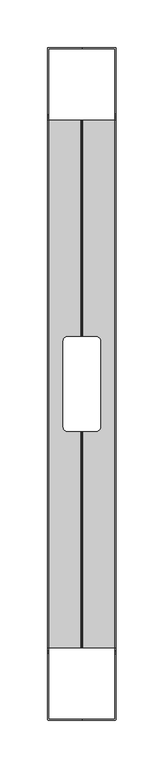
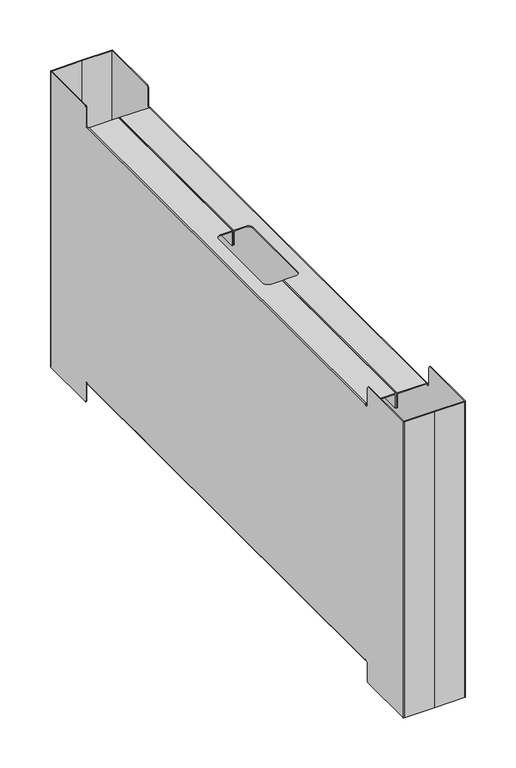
"""IFC4 building model written with IfcOpenShell, lengths in millimetres: furniture geometry, FREZZA_POP AD_Carter_for bench desk : Bracket_ZGBI - Embossed White."""

import ifcopenshell
import ifcopenshell.guid

model = None  # the IFC model being written
_history = None  # IfcOwnerHistory: only IFC2X3 demands one
_inside = {}  # id of a spatial element -> (the spatial element, [elements in it])
_under = {}  # id of a project, library or spatial element -> (it, [spatial elements below it])
_declared = {}  # id of a project -> (the project, [libraries it declares])
_typed = {}  # id of a type object -> (the type object, [elements of that type])
_made_of = {}  # id of a material, layer set ... -> (it, [elements and type objects made of it])


def new_model(schema):
    """Start an empty IFC model of exactly this schema.

    Asked for "IFC4X3", IfcOpenShell would pick the latest addendum, in which some entities
    have other attributes; the version numbers below select the first issue.
    IFC2X3 requires an IfcOwnerHistory on every rooted entity: one is made here for all.
    """
    global model, _history
    if schema == "IFC4X3":
        model = ifcopenshell.file(schema_version=(4, 3, 0, 0))
    else:
        model = ifcopenshell.file(schema=schema)
    _inside.clear()
    _under.clear()
    _declared.clear()
    _typed.clear()
    _made_of.clear()
    _history = None
    if model.schema == "IFC2X3":
        org = make("IfcOrganization", Name="unknown")
        user = make(
            "IfcPersonAndOrganization",
            ThePerson=make("IfcPerson", FamilyName="unknown"),
            TheOrganization=org,
        )
        app = make(
            "IfcApplication",
            ApplicationDeveloper=org,
            Version="unknown",
            ApplicationFullName="unknown",
            ApplicationIdentifier="unknown",
        )
        _history = make(
            "IfcOwnerHistory",
            OwningUser=user,
            OwningApplication=app,
            ChangeAction="ADDED",
            CreationDate=0,
        )
    return model


def make(cls, **values):
    """One entity of the class cls with the attributes given. An attribute that is None is left unset."""
    return model.create_entity(
        cls, **{name: value for name, value in values.items() if value is not None}
    )


def rooted(cls, **values):
    """An entity with a GlobalId (a new one), such as an element, a storey or a relation."""
    return make(cls, GlobalId=ifcopenshell.guid.new(), OwnerHistory=_history, **values)


def si_unit(unit_type, name, prefix=None):
    """IfcSIUnit, for example si_unit("LENGTHUNIT", "METRE", prefix="MILLI")."""
    return make("IfcSIUnit", UnitType=unit_type, Prefix=prefix, Name=name)


def assignment(units):
    """IfcUnitAssignment: the units of a project."""
    return None if units is None else make("IfcUnitAssignment", Units=units)


def point(xyz):
    """IfcCartesianPoint."""
    return None if xyz is None else make("IfcCartesianPoint", Coordinates=xyz)


def direction(xyz):
    """IfcDirection."""
    return None if xyz is None else make("IfcDirection", DirectionRatios=xyz)


def frame(location, z_axis=None, x_axis=None):
    """IfcAxis2Placement3D, a coordinate frame: its origin and axes. An axis left out is left unset."""
    return make(
        "IfcAxis2Placement3D",
        Location=point(location),
        Axis=direction(z_axis),
        RefDirection=direction(x_axis),
    )


def origin():
    """The frame at (0, 0, 0) with its axes left unset."""
    return frame((0.0, 0.0, 0.0))


def place(relative_to, where):
    """IfcLocalPlacement: puts the frame where relative to a parent placement (None: the world)."""
    return make(
        "IfcLocalPlacement", PlacementRelTo=relative_to, RelativePlacement=where
    )


def context(
    kind, dimensions, precision=None, world=None, true_north=None, identifier=None
):
    """IfcGeometricRepresentationContext, for example the 3D "Model" context."""
    return make(
        "IfcGeometricRepresentationContext",
        ContextIdentifier=identifier,
        ContextType=kind,
        CoordinateSpaceDimension=dimensions,
        Precision=precision,
        WorldCoordinateSystem=world,
        TrueNorth=true_north,
    )


def project(units=None, contexts=None):
    """IfcProject with its units and contexts."""
    return rooted(
        "IfcProject",
        Name="project",
        RepresentationContexts=contexts,
        UnitsInContext=assignment(units),
    )


def spatial(cls, under=None, at=None, **own):
    """A site, building, storey or space (cls), placed at a placement, below another one or the project."""
    s = rooted(cls, ObjectPlacement=at, **own)
    if under is not None:
        _under.setdefault(under.id(), (under, []))[1].append(s)
    return s


def polyline(points):
    """IfcPolyline through the points."""
    return make("IfcPolyline", Points=[point(p) for p in points])


def circle_curve(where, radius):
    """IfcCircle in the frame where."""
    return make("IfcCircle", Position=where, Radius=radius)


def shape(context_of_items, identifier, shape_type, items):
    """IfcShapeRepresentation: the items that make up one representation, for example the "Body"."""
    return make(
        "IfcShapeRepresentation",
        ContextOfItems=context_of_items,
        RepresentationIdentifier=identifier,
        RepresentationType=shape_type,
        Items=items,
    )


def source(mapping_origin, context_of_items, identifier, shape_type, items):
    """IfcRepresentationMap: a shape defined once, which mapped items show again and again."""
    return make(
        "IfcRepresentationMap",
        MappingOrigin=mapping_origin,
        MappedRepresentation=shape(context_of_items, identifier, shape_type, items),
    )


def transform(
    local_origin,
    x_axis=None,
    y_axis=None,
    z_axis=None,
    scale=None,
    scale2=None,
    scale3=None,
    uniform=True,
):
    """IfcCartesianTransformationOperator3D, or its non-uniform kind. x_axis, y_axis, z_axis: its Axis1, 2, 3."""
    if uniform:
        return make(
            "IfcCartesianTransformationOperator3D",
            Axis1=direction(x_axis),
            Axis2=direction(y_axis),
            LocalOrigin=point(local_origin),
            Scale=scale,
            Axis3=direction(z_axis),
        )
    return make(
        "IfcCartesianTransformationOperator3DnonUniform",
        Axis1=direction(x_axis),
        Axis2=direction(y_axis),
        LocalOrigin=point(local_origin),
        Scale=scale,
        Axis3=direction(z_axis),
        Scale2=scale2,
        Scale3=scale3,
    )


def mapped(mapping_source, mapping_target):
    """IfcMappedItem: shows the shape of a source again, moved by a transform."""
    return make(
        "IfcMappedItem", MappingSource=mapping_source, MappingTarget=mapping_target
    )


def made_of(thing, what):
    """Note that an element or type object is made of a material, layer set ...; save() writes the relation."""
    if what is not None:
        _made_of.setdefault(what.id(), (what, []))[1].append(thing)
    return thing


def element(
    cls,
    number,
    at=None,
    inside=None,
    cuts=None,
    type_object=None,
    material=None,
    context=None,
    identifier="Body",
    shape_type=None,
    held_by="IfcProductDefinitionShape",
    body=None,
    shapes=None,
    **own,
):
    """One element of the class cls, such as IfcWall. Its Tag is "e" and its number.

    at: its placement. inside: the storey or other place that contains it. cuts: it is an
    opening in that element (IfcRelVoidsElement). A single representation is given by context,
    identifier, shape_type and body (its items); several are given by shapes. held_by: the class
    of the entity that holds the representations. save() writes the other relations.
    """
    e = rooted(cls, Tag="e%d" % number, ObjectPlacement=at, **own)
    if body is not None:
        shapes = [shape(context, identifier, shape_type, body)]
    if shapes is not None:
        e.Representation = make(held_by, Representations=shapes)
    if inside is not None:
        _inside.setdefault(inside.id(), (inside, []))[1].append(e)
    if cuts is not None:
        rooted(
            "IfcRelVoidsElement", RelatingBuildingElement=cuts, RelatedOpeningElement=e
        )
    if type_object is not None:
        _typed.setdefault(type_object.id(), (type_object, []))[1].append(e)
    return made_of(e, material)


def aggregate(whole, parts):
    """IfcRelAggregates: a whole, such as a stair, and the parts it consists of."""
    return rooted("IfcRelAggregates", RelatingObject=whole, RelatedObjects=parts)


def save(model, path):
    """Write the relations noted so far, then the file.

    IfcRelAggregates (storeys below a building ...), IfcRelContainedInSpatialStructure (elements
    in a storey), IfcRelDefinesByType, IfcRelAssociatesMaterial and IfcRelDeclares: one each for
    every whole, place, type object, material and project.
    """
    for whole, parts in _under.values():
        aggregate(whole, parts)
    for where, things in _inside.values():
        rooted(
            "IfcRelContainedInSpatialStructure",
            RelatedElements=things,
            RelatingStructure=where,
        )
    for kind, things in _typed.values():
        rooted("IfcRelDefinesByType", RelatedObjects=things, RelatingType=kind)
    for what, things in _made_of.values():
        rooted("IfcRelAssociatesMaterial", RelatedObjects=things, RelatingMaterial=what)
    for by, libraries in _declared.values():
        rooted("IfcRelDeclares", RelatingContext=by, RelatedDefinitions=libraries)
    model.write(path)


def plane_surface(at):
    """IfcPlane: the flat surface through the origin of the frame at, square to its z axis."""
    return make("IfcPlane", Position=at)


def cylinder_surface(at, radius):
    """IfcCylindricalSurface: all points at the distance radius from the z axis of the frame at."""
    return make("IfcCylindricalSurface", Position=at, Radius=radius)


def revolved_surface(curve, axis_point, axis_direction):
    """IfcSurfaceOfRevolution: the curve turned about the line through axis_point along axis_direction."""
    return make(
        "IfcSurfaceOfRevolution",
        SweptCurve=make("IfcArbitraryOpenProfileDef", ProfileType="CURVE", Curve=curve),
        AxisPosition=make("IfcAxis1Placement", Location=point(axis_point), Axis=direction(axis_direction)),
    )


def advanced_brep(points, edges, surfaces, faces):
    """IfcAdvancedBrep: a solid bounded by faces that lie on surfaces and meet in shared edges.

    An edge is (start, end): straight between two places in points (the first is 0);
    or (start, end, curve); or (start, end, curve, False) where it runs against its curve.
    A face is (place in surfaces, loops), or (place, loops, False) where it looks against
    its surface's normal. A loop lists edges by number (the first is 1), with a minus sign
    where the edge is run from its end to its start. The first loop is the outer one.
    """
    corners = [point(p) for p in points]
    vertices = [make("IfcVertexPoint", VertexGeometry=c) for c in corners]
    made = []
    for start, end, *more in edges:
        made.append(
            make(
                "IfcEdgeCurve",
                EdgeStart=vertices[start],
                EdgeEnd=vertices[end],
                EdgeGeometry=more[0] if more else make("IfcPolyline", Points=[corners[start], corners[end]]),
                SameSense=more[1] if len(more) > 1 else True,
            )
        )
    hull = []
    for where, loops, *sense in faces:
        bounds = []
        for j, loop in enumerate(loops):
            ring = [make("IfcOrientedEdge", EdgeElement=made[abs(k) - 1], Orientation=k > 0) for k in loop]
            bounds.append(
                make(
                    "IfcFaceOuterBound" if j == 0 else "IfcFaceBound",
                    Bound=make("IfcEdgeLoop", EdgeList=ring),
                    Orientation=True,
                )
            )
        hull.append(make("IfcAdvancedFace", Bounds=bounds, FaceSurface=surfaces[where], SameSense=sense[0] if sense else True))
    return make("IfcAdvancedBrep", Outer=make("IfcClosedShell", CfsFaces=hull))


def furniture_a54ab712(model_context):
    return source(origin(), model_context, "Body", "AdvancedBrep", [
        advanced_brep(
        [(1451.0, 237.05, 335.5), (1452.05, 237.05, 336.55), (1485.9, 237.05, 336.55), (1486.95, 237.05, 335.5), (1486.95, 237.05, 318.55), (1485.95, 237.05, 318.55), (1485.95, 237.05, 335.55), (1452.0, 237.05, 335.55), (1452.0, 237.05, 335.0), (1451.0, 237.05, 335.0), (1452.0, 237.05, 24.45), (1485.95, 237.05, 24.45), (1485.95, 237.05, 41.45), (1486.95, 237.05, 41.45), (1486.95, 237.05, 24.5), (1485.9, 237.05, 23.45), (1452.05, 237.05, 23.45), (1451.0, 237.05, 24.5), (1451.0, 237.05, 25.0), (1452.0, 237.05, 25.0), (1452.0, -316.05, 335.55), (1485.95, -316.05, 335.55), (1485.95, -316.05, 318.55), (1486.95, -316.05, 318.55), (1486.95, -316.05, 335.5), (1485.9, -316.05, 336.55), (1452.05, -316.05, 336.55), (1451.0, -316.05, 335.5), (1451.0, -316.05, 335.0), (1452.0, -316.05, 335.0), (1451.0, -316.05, 24.5), (1452.05, -316.05, 23.45), (1485.9, -316.05, 23.45), (1486.95, -316.05, 24.5), (1486.95, -316.05, 41.45), (1485.95, -316.05, 41.45), (1485.95, -316.05, 24.45), (1452.0, -316.05, 24.45), (1452.0, -316.05, 25.0), (1451.0, -316.05, 25.0), (1485.9, -89.5, 336.55), (1472.0, -89.5, 336.55), (1467.0, -84.5, 336.55), (1467.0, 5.5, 336.55), (1472.0, 10.5, 336.55), (1485.9, 10.5, 336.55), (1486.95, 10.5, 335.5), (1486.95, -89.5, 335.5), (1486.95, 10.5, 318.55), (1486.95, -89.5, 318.55), (1485.95, 10.5, 318.55), (1485.95, -89.5, 318.55), (1485.95, 10.5, 335.55), (1485.95, -89.5, 335.55), (1472.0, 10.5, 335.55), (1467.0, 5.5, 335.55), (1467.0, -84.5, 335.55), (1472.0, -89.5, 335.55), (1452.0, -318.5, 335.0), (1452.0, -320.5, 337.0), (1452.0, -320.5, 358.0), (1452.0, -322.5, 360.0), (1452.0, -391.05, 360.0), (1452.0, -391.05, 0.0), (1452.0, -322.5, 0.0), (1452.0, -320.5, 2.0), (1452.0, -320.5, 23.0), (1452.0, -318.5, 25.0), (1452.0, 239.5, 25.0), (1452.0, 241.5, 23.0), (1452.0, 241.5, 2.0), (1452.0, 243.5, 0.0), (1452.0, 312.05, 0.0), (1452.0, 312.05, 360.0), (1452.0, 243.5, 360.0), (1452.0, 241.5, 358.0), (1452.0, 241.5, 337.0), (1452.0, 239.5, 335.0), (1451.0, 239.5, 335.0), (1451.0, 241.5, 337.0), (1451.0, 241.5, 358.0), (1451.0, 243.5, 360.0), (1451.0, 312.05, 360.0), (1451.0, 312.05, 0.0), (1451.0, 243.5, 0.0), (1451.0, 241.5, 2.0), (1451.0, 241.5, 23.0), (1451.0, 239.5, 25.0), (1451.0, -318.5, 25.0), (1451.0, -320.5, 23.0), (1451.0, -320.5, 2.0), (1451.0, -322.5, 0.0), (1451.0, -391.0, 0.0), (1451.0, -391.0, 360.0), (1451.0, -322.5, 360.0), (1451.0, -320.5, 358.0), (1451.0, -320.5, 337.0), (1451.0, -318.5, 335.0), (1485.95, -89.5, 24.45), (1472.0, -89.5, 24.45), (1467.0, -84.5, 24.45), (1467.0, 5.5, 24.45), (1472.0, 10.5, 24.45), (1485.95, 10.5, 24.45), (1485.95, 10.5, 41.45), (1485.95, -89.5, 41.45), (1486.95, 10.5, 41.45), (1486.95, -89.5, 41.45), (1486.95, 10.5, 24.5), (1486.95, -89.5, 24.5), (1485.9, 10.5, 23.45), (1485.9, -89.5, 23.45), (1472.0, 10.5, 23.45), (1467.0, 5.5, 23.45), (1467.0, -84.5, 23.45), (1472.0, -89.5, 23.45), (1487.0, 313.05, 360.0), (1452.0, 313.05, 360.0), (1487.0, 312.05, 360.0), (1452.05, -392.05, 360.0), (1487.0, -392.05, 360.0), (1487.0, -391.05, 360.0), (1487.0, 313.05, 0.0), (1487.0, 312.05, 0.0), (1452.05, 313.05, 0.0), (1487.0, -391.05, 0.0), (1487.0, -392.05, 0.0), (1452.05, -392.05, 0.0)],
        [
            (0, 1, circle_curve(frame((1452.05, 237.05, 335.5), z_axis=(0.0, 1.0, 0.0), x_axis=(1.0, 0.0, 0.0)), 1.05)),
            (1, 2),
            (2, 3, circle_curve(frame((1485.9, 237.05, 335.5), z_axis=(0.0, 1.0, 0.0), x_axis=(1.0, 0.0, 0.0)), 1.05)),
            (3, 4),
            (4, 5),
            (5, 6),
            (6, 7),
            (7, 8),
            (8, 9),
            (9, 0),
            (10, 11),
            (11, 12),
            (12, 13),
            (13, 14),
            (14, 15, circle_curve(frame((1485.9, 237.05, 24.5), z_axis=(0.0, 1.0, 0.0), x_axis=(1.0, 0.0, 0.0)), 1.05)),
            (15, 16),
            (16, 17, circle_curve(frame((1452.05, 237.05, 24.5), z_axis=(0.0, 1.0, 0.0), x_axis=(1.0, 0.0, 0.0)), 1.05)),
            (17, 18),
            (18, 19),
            (19, 10),
            (20, 21),
            (21, 22),
            (22, 23),
            (23, 24),
            (24, 25, circle_curve(frame((1485.9, -316.05, 335.5), z_axis=(0.0, -1.0, 0.0), x_axis=(1.0, 0.0, 0.0)), 1.05)),
            (25, 26),
            (26, 27, circle_curve(frame((1452.05, -316.05, 335.5), z_axis=(0.0, -1.0, 0.0), x_axis=(1.0, 0.0, 0.0)), 1.05)),
            (27, 28),
            (28, 29),
            (29, 20),
            (30, 31, circle_curve(frame((1452.05, -316.05, 24.5), z_axis=(0.0, -1.0, 0.0), x_axis=(1.0, 0.0, 0.0)), 1.05)),
            (31, 32),
            (32, 33, circle_curve(frame((1485.9, -316.05, 24.5), z_axis=(0.0, -1.0, 0.0), x_axis=(1.0, 0.0, 0.0)), 1.05)),
            (33, 34),
            (34, 35),
            (35, 36),
            (36, 37),
            (37, 38),
            (38, 39),
            (39, 30),
            (0, 27),
            (26, 1),
            (25, 40),
            (40, 41),
            (41, 42, circle_curve(frame((1472.0, -84.5, 336.55), z_axis=(0.0, 0.0, -1.0), x_axis=(1.0, 0.0, 0.0)), 5.0)),
            (42, 43),
            (43, 44, circle_curve(frame((1472.0, 5.5, 336.55), z_axis=(0.0, 0.0, -1.0), x_axis=(1.0, 0.0, 0.0)), 5.0)),
            (44, 45),
            (45, 2),
            (45, 46, circle_curve(frame((1485.9, 10.5, 335.5), z_axis=(0.0, 1.0, 0.0), x_axis=(1.0, 0.0, 0.0)), 1.05)),
            (46, 3),
            (24, 47),
            (47, 40, circle_curve(frame((1485.9, -89.5, 335.5), z_axis=(0.0, -1.0, 0.0), x_axis=(1.0, 0.0, 0.0)), 1.05)),
            (46, 48),
            (48, 4),
            (23, 49),
            (49, 47),
            (48, 50),
            (50, 5),
            (22, 51),
            (51, 49),
            (50, 52),
            (52, 6),
            (21, 53),
            (53, 51),
            (52, 54),
            (54, 55, circle_curve(frame((1472.0, 5.5, 335.55), z_axis=(0.0, 0.0, 1.0), x_axis=(1.0, 0.0, 0.0)), 5.0)),
            (55, 56),
            (56, 57, circle_curve(frame((1472.0, -84.5, 335.55), z_axis=(0.0, 0.0, 1.0), x_axis=(1.0, 0.0, 0.0)), 5.0)),
            (57, 53),
            (20, 7),
            (29, 58),
            (58, 59, circle_curve(frame((1452.0, -318.5, 337.0), z_axis=(-1.0, 0.0, 0.0), x_axis=(0.0, -1.0, 0.0)), 2.0)),
            (59, 60),
            (60, 61, circle_curve(frame((1452.0, -322.5, 358.0), z_axis=(1.0, 0.0, 0.0), x_axis=(0.0, -1.0, 0.0)), 2.0)),
            (61, 62),
            (62, 63),
            (63, 64),
            (64, 65, circle_curve(frame((1452.0, -322.5, 2.0), z_axis=(1.0, 0.0, 0.0), x_axis=(0.0, -1.0, 0.0)), 2.0)),
            (65, 66),
            (66, 67, circle_curve(frame((1452.0, -318.5, 23.0), z_axis=(-1.0, 0.0, 0.0), x_axis=(0.0, -1.0, 0.0)), 2.0)),
            (67, 38),
            (37, 10),
            (19, 68),
            (68, 69, circle_curve(frame((1452.0, 239.5, 23.0), z_axis=(-1.0, 0.0, 0.0), x_axis=(0.0, -1.0, 0.0)), 2.0)),
            (69, 70),
            (70, 71, circle_curve(frame((1452.0, 243.5, 2.0), z_axis=(1.0, 0.0, 0.0), x_axis=(0.0, -1.0, 0.0)), 2.0)),
            (71, 72),
            (72, 73),
            (73, 74),
            (74, 75, circle_curve(frame((1452.0, 243.5, 358.0), z_axis=(1.0, 0.0, 0.0), x_axis=(0.0, -1.0, 0.0)), 2.0)),
            (75, 76),
            (76, 77, circle_curve(frame((1452.0, 239.5, 337.0), z_axis=(-1.0, 0.0, 0.0), x_axis=(0.0, -1.0, 0.0)), 2.0)),
            (77, 8),
            (9, 78),
            (78, 79, circle_curve(frame((1451.0, 239.5, 337.0), z_axis=(1.0, 0.0, 0.0), x_axis=(0.0, -1.0, 0.0)), 2.0)),
            (79, 80),
            (80, 81, circle_curve(frame((1451.0, 243.5, 358.0), z_axis=(-1.0, 0.0, 0.0), x_axis=(0.0, -1.0, 0.0)), 2.0)),
            (81, 82),
            (82, 83),
            (83, 84),
            (84, 85, circle_curve(frame((1451.0, 243.5, 2.0), z_axis=(-1.0, 0.0, 0.0), x_axis=(0.0, -1.0, 0.0)), 2.0)),
            (85, 86),
            (86, 87, circle_curve(frame((1451.0, 239.5, 23.0), z_axis=(1.0, 0.0, 0.0), x_axis=(0.0, -1.0, 0.0)), 2.0)),
            (87, 18),
            (17, 30),
            (39, 88),
            (88, 89, circle_curve(frame((1451.0, -318.5, 23.0), z_axis=(1.0, 0.0, 0.0), x_axis=(0.0, -1.0, 0.0)), 2.0)),
            (89, 90),
            (90, 91, circle_curve(frame((1451.0, -322.5, 2.0), z_axis=(-1.0, 0.0, 0.0), x_axis=(0.0, -1.0, 0.0)), 2.0)),
            (91, 92),
            (92, 93),
            (93, 94),
            (94, 95, circle_curve(frame((1451.0, -322.5, 358.0), z_axis=(-1.0, 0.0, 0.0), x_axis=(0.0, -1.0, 0.0)), 2.0)),
            (95, 96),
            (96, 97, circle_curve(frame((1451.0, -318.5, 337.0), z_axis=(1.0, 0.0, 0.0), x_axis=(0.0, -1.0, 0.0)), 2.0)),
            (97, 28),
            (36, 98),
            (98, 99),
            (99, 100, circle_curve(frame((1472.0, -84.5, 24.45), z_axis=(0.0, 0.0, -1.0), x_axis=(1.0, 0.0, 0.0)), 5.0)),
            (100, 101),
            (101, 102, circle_curve(frame((1472.0, 5.5, 24.45), z_axis=(0.0, 0.0, -1.0), x_axis=(1.0, 0.0, 0.0)), 5.0)),
            (102, 103),
            (103, 11),
            (103, 104),
            (104, 12),
            (35, 105),
            (105, 98),
            (104, 106),
            (106, 13),
            (34, 107),
            (107, 105),
            (106, 108),
            (108, 14),
            (33, 109),
            (109, 107),
            (108, 110, circle_curve(frame((1485.9, 10.5, 24.5), z_axis=(0.0, 1.0, 0.0), x_axis=(1.0, 0.0, 0.0)), 1.05)),
            (110, 15),
            (32, 111),
            (111, 109, circle_curve(frame((1485.9, -89.5, 24.5), z_axis=(0.0, -1.0, 0.0), x_axis=(1.0, 0.0, 0.0)), 1.05)),
            (110, 112),
            (112, 113, circle_curve(frame((1472.0, 5.5, 23.45), z_axis=(0.0, 0.0, 1.0), x_axis=(1.0, 0.0, 0.0)), 5.0)),
            (113, 114),
            (114, 115, circle_curve(frame((1472.0, -84.5, 23.45), z_axis=(0.0, 0.0, 1.0), x_axis=(1.0, 0.0, 0.0)), 5.0)),
            (115, 111),
            (31, 16),
            (56, 42),
            (41, 57),
            (114, 100),
            (99, 115),
            (44, 54),
            (102, 112),
            (43, 55),
            (101, 113),
            (116, 117),
            (117, 82, circle_curve(frame((1452.05, 312.0, 360.0), z_axis=(0.0, 0.0, 1.0), x_axis=(1.0, 0.0, 0.0)), 1.05)),
            (81, 74),
            (73, 118),
            (118, 116),
            (93, 119, circle_curve(frame((1452.05, -391.0, 360.0), z_axis=(0.0, 0.0, 1.0), x_axis=(1.0, 0.0, 0.0)), 1.05)),
            (119, 120),
            (120, 121),
            (121, 62),
            (61, 94),
            (122, 123),
            (123, 72),
            (71, 84),
            (83, 124, circle_curve(frame((1452.05, 312.0, 0.0), z_axis=(0.0, 0.0, -1.0), x_axis=(1.0, 0.0, 0.0)), 1.05)),
            (124, 122),
            (63, 125),
            (125, 126),
            (126, 127),
            (127, 92, circle_curve(frame((1452.05, -391.0, 0.0), z_axis=(0.0, 0.0, -1.0), x_axis=(1.0, 0.0, 0.0)), 1.05)),
            (91, 64),
            (116, 122),
            (124, 117),
            (127, 119),
            (126, 120),
            (125, 121),
            (123, 118),
            (80, 75),
            (79, 76),
            (78, 77),
            (97, 58),
            (96, 59),
            (95, 60),
            (90, 65),
            (89, 66),
            (88, 67),
            (87, 68),
            (86, 69),
            (85, 70),
        ],
        [
            plane_surface(frame((1487.0, 237.05, 0.0), z_axis=(0.0, 1.0, 0.0), x_axis=(0.0, 0.0, 1.0))),
            plane_surface(frame((1487.0, -316.05, 0.0), z_axis=(0.0, -1.0, 0.0), x_axis=(0.0, 0.0, 1.0))),
            cylinder_surface(frame((1452.05, 237.05, 335.5), z_axis=(0.0, 1.0, 0.0), x_axis=(1.0, 0.0, 0.0)), 1.05),
            plane_surface(frame((1452.05, 237.05, 336.55), z_axis=(0.0, 0.0, 1.0), x_axis=(0.0, -1.0, 0.0))),
            cylinder_surface(frame((1485.9, 237.05, 335.5), z_axis=(0.0, 1.0, 0.0), x_axis=(1.0, 0.0, 0.0)), 1.05),
            plane_surface(frame((1486.95, 237.05, 335.5), z_axis=(1.0, 0.0, 0.0), x_axis=(0.0, -1.0, 0.0))),
            plane_surface(frame((1486.95, 237.05, 318.55), z_axis=(0.0, 0.0, -1.0), x_axis=(0.0, -1.0, 0.0))),
            plane_surface(frame((1485.95, 237.05, 318.55), z_axis=(-1.0, 0.0, 0.0), x_axis=(0.0, -1.0, 0.0))),
            plane_surface(frame((1485.95, 237.05, 335.55), z_axis=(0.0, 0.0, -1.0), x_axis=(0.0, -1.0, 0.0))),
            plane_surface(frame((1452.0, 237.05, 335.55), z_axis=(1.0, 0.0, 0.0), x_axis=(0.0, -1.0, 0.0))),
            plane_surface(frame((1451.0, 237.05, 334.55), z_axis=(-1.0, 0.0, 0.0), x_axis=(0.0, -1.0, 0.0))),
            plane_surface(frame((1452.0, 237.05, 24.45), z_axis=(0.0, 0.0, 1.0), x_axis=(0.0, -1.0, 0.0))),
            plane_surface(frame((1485.95, 237.05, 24.45), z_axis=(-1.0, 0.0, 0.0), x_axis=(0.0, -1.0, 0.0))),
            plane_surface(frame((1485.95, 237.05, 41.45), z_axis=(0.0, 0.0, 1.0), x_axis=(0.0, -1.0, 0.0))),
            plane_surface(frame((1486.95, 237.05, 41.45), z_axis=(1.0, 0.0, 0.0), x_axis=(0.0, -1.0, 0.0))),
            cylinder_surface(frame((1485.9, 237.05, 24.5), z_axis=(0.0, 1.0, 0.0), x_axis=(1.0, 0.0, 0.0)), 1.05),
            plane_surface(frame((1485.9, 237.05, 23.45), z_axis=(0.0, 0.0, -1.0), x_axis=(0.0, -1.0, 0.0))),
            cylinder_surface(frame((1452.05, 237.05, 24.5), z_axis=(0.0, 1.0, 0.0), x_axis=(1.0, 0.0, 0.0)), 1.05),
            revolved_surface(polyline([(1477.0, -84.5, 336.55), (1477.0, -84.5, 335.55)]), (1472.0, -84.5, 0.0), (0.0, 0.0, 1.0)),
            revolved_surface(polyline([(1477.0, -84.5, 24.45), (1477.0, -84.5, 23.45)]), (1472.0, -84.5, 0.0), (0.0, 0.0, 1.0)),
            plane_surface(frame((1472.0, -89.5, 360.0), z_axis=(0.0, 1.0, 0.0), x_axis=(0.0, 0.0, -1.0))),
            plane_surface(frame((1502.0, 10.5, 360.0), z_axis=(0.0, -1.0, 0.0), x_axis=(0.0, 0.0, -1.0))),
            revolved_surface(polyline([(1477.0, 5.5, 336.55), (1477.0, 5.5, 335.55)]), (1472.0, 5.5, 0.0), (0.0, 0.0, 1.0)),
            revolved_surface(polyline([(1477.0, 5.5, 24.45), (1477.0, 5.5, 23.45)]), (1472.0, 5.5, 0.0), (0.0, 0.0, 1.0)),
            plane_surface(frame((1467.0, 5.5, 360.0), z_axis=(1.0, 0.0, 0.0), x_axis=(0.0, 0.0, -1.0))),
            plane_surface(frame((1452.0, 313.05, 360.0), z_axis=(0.0, 0.0, 1.0), x_axis=(-1.0, 0.0, 0.0))),
            plane_surface(frame((1452.0, 313.05, 0.0), z_axis=(0.0, 0.0, -1.0), x_axis=(1.0, 0.0, 0.0))),
            plane_surface(frame((1487.0, 313.05, 360.0), z_axis=(0.0, 1.0, 0.0), x_axis=(0.0, 0.0, -1.0))),
            cylinder_surface(frame((1452.05, 312.0, 0.0), z_axis=(0.0, 0.0, 1.0), x_axis=(1.0, 0.0, 0.0)), 1.05),
            cylinder_surface(frame((1452.05, -391.0, 0.0), z_axis=(0.0, 0.0, 1.0), x_axis=(1.0, 0.0, 0.0)), 1.05),
            plane_surface(frame((1452.05, -392.05, 360.0), z_axis=(0.0, -1.0, 0.0), x_axis=(0.0, 0.0, -1.0))),
            plane_surface(frame((1487.0, -392.05, 360.0), z_axis=(1.0, 0.0, 0.0), x_axis=(0.0, 0.0, -1.0))),
            plane_surface(frame((1487.0, -391.05, 360.0), z_axis=(0.0, 1.0, 0.0), x_axis=(0.0, 0.0, -1.0))),
            plane_surface(frame((1452.0, 312.05, 360.0), z_axis=(0.0, -1.0, 0.0), x_axis=(0.0, 0.0, -1.0))),
            plane_surface(frame((1487.0, 312.05, 360.0), z_axis=(1.0, 0.0, 0.0), x_axis=(0.0, 0.0, -1.0))),
            cylinder_surface(frame((1527.0, 243.5, 358.0), z_axis=(1.0, 0.0, 0.0), x_axis=(0.0, -1.0, 0.0)), 2.0),
            plane_surface(frame((1447.0, 241.5, 358.0), z_axis=(0.0, -1.0, 0.0), x_axis=(1.0, 0.0, 0.0))),
            revolved_surface(polyline([(1451.0, 237.5, 337.0), (1452.0, 237.5, 337.0)]), (1527.0, 239.5, 337.0), (-1.0, 0.0, 0.0)),
            plane_surface(frame((1447.0, 239.5, 335.0), z_axis=(0.0, 0.0, 1.0), x_axis=(1.0, 0.0, 0.0))),
            revolved_surface(polyline([(1451.0, -320.5, 337.0), (1452.0, -320.5, 337.0)]), (1527.0, -318.5, 337.0), (-1.0, 0.0, 0.0)),
            plane_surface(frame((1447.0, -320.5, 337.0), z_axis=(0.0, 1.0, 0.0), x_axis=(1.0, 0.0, 0.0))),
            cylinder_surface(frame((1527.0, -322.5, 358.0), z_axis=(1.0, 0.0, 0.0), x_axis=(0.0, -1.0, 0.0)), 2.0),
            cylinder_surface(frame((1447.0, -322.5, 2.0), z_axis=(1.0, 0.0, 0.0), x_axis=(0.0, -1.0, 0.0)), 2.0),
            plane_surface(frame((1447.0, -320.5, 2.0), z_axis=(0.0, 1.0, 0.0), x_axis=(1.0, 0.0, 0.0))),
            revolved_surface(polyline([(1451.0, -320.5, 23.0), (1452.0, -320.5, 23.0)]), (1447.0, -318.5, 23.0), (-1.0, 0.0, 0.0)),
            plane_surface(frame((1447.0, -318.5, 25.0), z_axis=(0.0, 0.0, -1.0), x_axis=(1.0, 0.0, 0.0))),
            revolved_surface(polyline([(1451.0, 237.5, 23.0), (1452.0, 237.5, 23.0)]), (1447.0, 239.5, 23.0), (-1.0, 0.0, 0.0)),
            plane_surface(frame((1447.0, 241.5, 23.0), z_axis=(0.0, -1.0, 0.0), x_axis=(1.0, 0.0, 0.0))),
            cylinder_surface(frame((1447.0, 243.5, 2.0), z_axis=(1.0, 0.0, 0.0), x_axis=(0.0, -1.0, 0.0)), 2.0),
        ],
        [
            (0, [[1, 2, 3, 4, 5, 6, 7, 8, 9, 10]]),
            (0, [[11, 12, 13, 14, 15, 16, 17, 18, 19, 20]]),
            (1, [[21, 22, 23, 24, 25, 26, 27, 28, 29, 30]]),
            (1, [[31, 32, 33, 34, 35, 36, 37, 38, 39, 40]]),
            (2, [[-1, 41, -27, 42]]),
            (3, [[-2, -42, -26, 43, 44, 45, 46, 47, 48, 49]]),
            (4, [[-3, -49, 50, 51]]),
            (4, [[-25, 52, 53, -43]]),
            (5, [[-4, -51, 54, 55]]),
            (5, [[-24, 56, 57, -52]]),
            (6, [[-5, -55, 58, 59]]),
            (6, [[-23, 60, 61, -56]]),
            (7, [[-6, -59, 62, 63]]),
            (7, [[-22, 64, 65, -60]]),
            (8, [[-7, -63, 66, 67, 68, 69, 70, -64, -21, 71]]),
            (9, [[-71, -30, 72, 73, 74, 75, 76, 77, 78, 79, 80, 81, 82, -38, 83, -20, 84, 85, 86, 87, 88, 89, 90, 91, 92, 93, 94, -8]]),
            (10, [[-41, -10, 95, 96, 97, 98, 99, 100, 101, 102, 103, 104, 105, -18, 106, -40, 107, 108, 109, 110, 111, 112, 113, 114, 115, 116, 117, -28]]),
            (11, [[-11, -83, -37, 118, 119, 120, 121, 122, 123, 124]]),
            (12, [[-12, -124, 125, 126]]),
            (12, [[-36, 127, 128, -118]]),
            (13, [[-13, -126, 129, 130]]),
            (13, [[-35, 131, 132, -127]]),
            (14, [[-14, -130, 133, 134]]),
            (14, [[-34, 135, 136, -131]]),
            (15, [[-15, -134, 137, 138]]),
            (15, [[-33, 139, 140, -135]]),
            (16, [[-16, -138, 141, 142, 143, 144, 145, -139, -32, 146]]),
            (17, [[-17, -146, -31, -106]]),
            (18, [[147, -45, 148, -69]]),
            (19, [[149, -120, 150, -144]]),
            (20, [[-148, -44, -53, -57, -61, -65, -70]]),
            (20, [[-150, -119, -128, -132, -136, -140, -145]]),
            (21, [[151, -66, -62, -58, -54, -50, -48]]),
            (21, [[152, -141, -137, -133, -129, -125, -123]]),
            (22, [[-151, -47, 153, -67]]),
            (23, [[-152, -122, 154, -142]]),
            (24, [[-147, -68, -153, -46]]),
            (24, [[-149, -143, -154, -121]]),
            (25, [[155, 156, -99, 157, -90, 158, 159]]),
            (25, [[160, 161, 162, 163, -76, 164, -113]]),
            (26, [[165, 166, -88, 167, -101, 168, 169]]),
            (26, [[170, 171, 172, 173, -111, 174, -78]]),
            (27, [[-155, 175, -169, 176]]),
            (28, [[-156, -176, -168, -100]]),
            (29, [[-160, -112, -173, 177]]),
            (30, [[-161, -177, -172, 178]]),
            (31, [[-162, -178, -171, 179]]),
            (32, [[-163, -179, -170, -77]]),
            (33, [[-158, -89, -166, 180]]),
            (34, [[-159, -180, -165, -175]]),
            (35, [[181, -91, -157, -98]]),
            (36, [[-181, -97, 182, -92]]),
            (37, [[-182, -96, 183, -93]]),
            (38, [[-183, -95, -9, -94]]),
            (38, [[184, -72, -29, -117]]),
            (39, [[-184, -116, 185, -73]]),
            (40, [[-185, -115, 186, -74]]),
            (41, [[-186, -114, -164, -75]]),
            (42, [[187, -79, -174, -110]]),
            (43, [[-187, -109, 188, -80]]),
            (44, [[-188, -108, 189, -81]]),
            (45, [[-189, -107, -39, -82]]),
            (45, [[190, -84, -19, -105]]),
            (46, [[-190, -104, 191, -85]]),
            (47, [[-191, -103, 192, -86]]),
            (48, [[-192, -102, -167, -87]]),
        ],
    ),
        advanced_brep(
        [(1502.0, -89.5, 336.55), (1502.0, -89.5, 335.55), (1488.05, -89.5, 335.55), (1488.05, -89.5, 318.55), (1487.05, -89.5, 318.55), (1487.05, -89.5, 335.5), (1488.1, -89.5, 336.55), (1502.0, -89.5, 24.45), (1502.0, -89.5, 23.45), (1488.1, -89.5, 23.45), (1487.05, -89.5, 24.5), (1487.05, -89.5, 41.45), (1488.05, -89.5, 41.45), (1488.05, -89.5, 24.45), (1507.0, -84.5, 336.55), (1507.0, -84.5, 335.55), (1507.0, -84.5, 24.45), (1507.0, -84.5, 23.45), (1507.0, 5.5, 336.55), (1507.0, 5.5, 335.55), (1507.0, 5.5, 24.45), (1507.0, 5.5, 23.45), (1502.0, 10.5, 336.55), (1502.0, 10.5, 335.55), (1502.0, 10.5, 24.45), (1502.0, 10.5, 23.45), (1488.1, 10.5, 336.55), (1487.05, 10.5, 335.5), (1487.05, 10.5, 318.55), (1488.05, 10.5, 318.55), (1488.05, 10.5, 335.55), (1488.05, 10.5, 24.45), (1488.05, 10.5, 41.45), (1487.05, 10.5, 41.45), (1487.05, 10.5, 24.5), (1488.1, 10.5, 23.45), (1522.0, 237.05, 335.55), (1488.05, 237.05, 335.55), (1488.05, 237.05, 318.55), (1487.05, 237.05, 318.55), (1487.05, 237.05, 335.5), (1488.1, 237.05, 336.55), (1521.95, 237.05, 336.55), (1523.0, 237.05, 335.5), (1523.0, 237.05, 335.0), (1522.0, 237.05, 335.0), (1523.0, 237.05, 24.5), (1521.95, 237.05, 23.45), (1488.1, 237.05, 23.45), (1487.05, 237.05, 24.5), (1487.05, 237.05, 41.45), (1488.05, 237.05, 41.45), (1488.05, 237.05, 24.45), (1522.0, 237.05, 24.45), (1522.0, 237.05, 25.0), (1523.0, 237.05, 25.0), (1523.0, -316.05, 335.5), (1521.95, -316.05, 336.55), (1488.1, -316.05, 336.55), (1487.05, -316.05, 335.5), (1487.05, -316.05, 318.55), (1488.05, -316.05, 318.55), (1488.05, -316.05, 335.55), (1522.0, -316.05, 335.55), (1522.0, -316.05, 335.0), (1523.0, -316.05, 335.0), (1522.0, -316.05, 24.45), (1488.05, -316.05, 24.45), (1488.05, -316.05, 41.45), (1487.05, -316.05, 41.45), (1487.05, -316.05, 24.5), (1488.1, -316.05, 23.45), (1521.95, -316.05, 23.45), (1523.0, -316.05, 24.5), (1523.0, -316.05, 25.0), (1522.0, -316.05, 25.0), (1522.0, 239.5, 335.0), (1522.0, 241.5, 337.0), (1522.0, 241.5, 358.0), (1522.0, 243.5, 360.0), (1522.0, 312.05, 360.0), (1522.0, 312.05, 0.0), (1522.0, 243.5, 0.0), (1522.0, 241.5, 2.0), (1522.0, 241.5, 23.0), (1522.0, 239.5, 25.0), (1522.0, -318.5, 25.0), (1522.0, -320.5, 23.0), (1522.0, -320.5, 2.0), (1522.0, -322.5, 0.0), (1522.0, -391.05, 0.0), (1522.0, -391.05, 360.0), (1522.0, -322.5, 360.0), (1522.0, -320.5, 358.0), (1522.0, -320.5, 337.0), (1522.0, -318.5, 335.0), (1523.0, -318.5, 335.0), (1523.0, -320.5, 337.0), (1523.0, -320.5, 358.0), (1523.0, -322.5, 360.0), (1523.0, -391.0, 360.0), (1523.0, -391.0, 0.0), (1523.0, -322.5, 0.0), (1523.0, -320.5, 2.0), (1523.0, -320.5, 23.0), (1523.0, -318.5, 25.0), (1523.0, 239.5, 25.0), (1523.0, 241.5, 23.0), (1523.0, 241.5, 2.0), (1523.0, 243.5, 0.0), (1523.0, 312.05, 0.0), (1523.0, 312.0, 360.0), (1523.0, 243.5, 360.0), (1523.0, 241.5, 358.0), (1523.0, 241.5, 337.0), (1523.0, 239.5, 335.0), (1487.0, 313.05, 360.0), (1487.0, 312.05, 360.0), (1521.95, 313.05, 360.0), (1487.0, -391.05, 360.0), (1487.0, -392.05, 360.0), (1521.95, -392.05, 360.0), (1487.0, 313.05, 0.0), (1522.0, 313.05, 0.0), (1487.0, 312.05, 0.0), (1521.95, -392.05, 0.0), (1487.0, -392.05, 0.0), (1487.0, -391.05, 0.0)],
        [
            (0, 1),
            (1, 2),
            (2, 3),
            (3, 4),
            (4, 5),
            (5, 6, circle_curve(frame((1488.1, -89.5, 335.5), z_axis=(0.0, 1.0, 0.0), x_axis=(1.0, 0.0, 0.0)), 1.05)),
            (6, 0),
            (7, 8),
            (8, 9),
            (9, 10, circle_curve(frame((1488.1, -89.5, 24.5), z_axis=(0.0, 1.0, 0.0), x_axis=(1.0, 0.0, 0.0)), 1.05)),
            (10, 11),
            (11, 12),
            (12, 13),
            (13, 7),
            (0, 14, circle_curve(frame((1502.0, -84.5, 336.55), z_axis=(0.0, 0.0, 1.0), x_axis=(1.0, 0.0, 0.0)), 5.0)),
            (14, 15),
            (15, 1, circle_curve(frame((1502.0, -84.5, 335.55), z_axis=(0.0, 0.0, -1.0), x_axis=(1.0, 0.0, 0.0)), 5.0)),
            (7, 16, circle_curve(frame((1502.0, -84.5, 24.45), z_axis=(0.0, 0.0, 1.0), x_axis=(1.0, 0.0, 0.0)), 5.0)),
            (16, 17),
            (17, 8, circle_curve(frame((1502.0, -84.5, 23.45), z_axis=(0.0, 0.0, -1.0), x_axis=(1.0, 0.0, 0.0)), 5.0)),
            (14, 18),
            (18, 19),
            (19, 15),
            (16, 20),
            (20, 21),
            (21, 17),
            (18, 22, circle_curve(frame((1502.0, 5.5, 336.55), z_axis=(0.0, 0.0, 1.0), x_axis=(1.0, 0.0, 0.0)), 5.0)),
            (22, 23),
            (23, 19, circle_curve(frame((1502.0, 5.5, 335.55), z_axis=(0.0, 0.0, -1.0), x_axis=(1.0, 0.0, 0.0)), 5.0)),
            (20, 24, circle_curve(frame((1502.0, 5.5, 24.45), z_axis=(0.0, 0.0, 1.0), x_axis=(1.0, 0.0, 0.0)), 5.0)),
            (24, 25),
            (25, 21, circle_curve(frame((1502.0, 5.5, 23.45), z_axis=(0.0, 0.0, -1.0), x_axis=(1.0, 0.0, 0.0)), 5.0)),
            (22, 26),
            (26, 27, circle_curve(frame((1488.1, 10.5, 335.5), z_axis=(0.0, -1.0, 0.0), x_axis=(1.0, 0.0, 0.0)), 1.05)),
            (27, 28),
            (28, 29),
            (29, 30),
            (30, 23),
            (24, 31),
            (31, 32),
            (32, 33),
            (33, 34),
            (34, 35, circle_curve(frame((1488.1, 10.5, 24.5), z_axis=(0.0, -1.0, 0.0), x_axis=(1.0, 0.0, 0.0)), 1.05)),
            (35, 25),
            (36, 37),
            (37, 38),
            (38, 39),
            (39, 40),
            (40, 41, circle_curve(frame((1488.1, 237.05, 335.5), z_axis=(0.0, 1.0, 0.0), x_axis=(1.0, 0.0, 0.0)), 1.05)),
            (41, 42),
            (42, 43, circle_curve(frame((1521.95, 237.05, 335.5), z_axis=(0.0, 1.0, 0.0), x_axis=(1.0, 0.0, 0.0)), 1.05)),
            (43, 44),
            (44, 45),
            (45, 36),
            (46, 47, circle_curve(frame((1521.95, 237.05, 24.5), z_axis=(0.0, 1.0, 0.0), x_axis=(1.0, 0.0, 0.0)), 1.05)),
            (47, 48),
            (48, 49, circle_curve(frame((1488.1, 237.05, 24.5), z_axis=(0.0, 1.0, 0.0), x_axis=(1.0, 0.0, 0.0)), 1.05)),
            (49, 50),
            (50, 51),
            (51, 52),
            (52, 53),
            (53, 54),
            (54, 55),
            (55, 46),
            (56, 57, circle_curve(frame((1521.95, -316.05, 335.5), z_axis=(0.0, -1.0, 0.0), x_axis=(1.0, 0.0, 0.0)), 1.05)),
            (57, 58),
            (58, 59, circle_curve(frame((1488.1, -316.05, 335.5), z_axis=(0.0, -1.0, 0.0), x_axis=(1.0, 0.0, 0.0)), 1.05)),
            (59, 60),
            (60, 61),
            (61, 62),
            (62, 63),
            (63, 64),
            (64, 65),
            (65, 56),
            (66, 67),
            (67, 68),
            (68, 69),
            (69, 70),
            (70, 71, circle_curve(frame((1488.1, -316.05, 24.5), z_axis=(0.0, -1.0, 0.0), x_axis=(1.0, 0.0, 0.0)), 1.05)),
            (71, 72),
            (72, 73, circle_curve(frame((1521.95, -316.05, 24.5), z_axis=(0.0, -1.0, 0.0), x_axis=(1.0, 0.0, 0.0)), 1.05)),
            (73, 74),
            (74, 75),
            (75, 66),
            (42, 57),
            (56, 43),
            (41, 26),
            (6, 58),
            (40, 27),
            (5, 59),
            (39, 28),
            (4, 60),
            (38, 29),
            (3, 61),
            (37, 30),
            (2, 62),
            (36, 63),
            (45, 76),
            (76, 77, circle_curve(frame((1522.0, 239.5, 337.0), z_axis=(1.0, 0.0, 0.0), x_axis=(0.0, -1.0, 0.0)), 2.0)),
            (77, 78),
            (78, 79, circle_curve(frame((1522.0, 243.5, 358.0), z_axis=(-1.0, 0.0, 0.0), x_axis=(0.0, -1.0, 0.0)), 2.0)),
            (79, 80),
            (80, 81),
            (81, 82),
            (82, 83, circle_curve(frame((1522.0, 243.5, 2.0), z_axis=(-1.0, 0.0, 0.0), x_axis=(0.0, -1.0, 0.0)), 2.0)),
            (83, 84),
            (84, 85, circle_curve(frame((1522.0, 239.5, 23.0), z_axis=(1.0, 0.0, 0.0), x_axis=(0.0, -1.0, 0.0)), 2.0)),
            (85, 54),
            (53, 66),
            (75, 86),
            (86, 87, circle_curve(frame((1522.0, -318.5, 23.0), z_axis=(1.0, 0.0, 0.0), x_axis=(0.0, -1.0, 0.0)), 2.0)),
            (87, 88),
            (88, 89, circle_curve(frame((1522.0, -322.5, 2.0), z_axis=(-1.0, 0.0, 0.0), x_axis=(0.0, -1.0, 0.0)), 2.0)),
            (89, 90),
            (90, 91),
            (91, 92),
            (92, 93, circle_curve(frame((1522.0, -322.5, 358.0), z_axis=(-1.0, 0.0, 0.0), x_axis=(0.0, -1.0, 0.0)), 2.0)),
            (93, 94),
            (94, 95, circle_curve(frame((1522.0, -318.5, 337.0), z_axis=(1.0, 0.0, 0.0), x_axis=(0.0, -1.0, 0.0)), 2.0)),
            (95, 64),
            (65, 96),
            (96, 97, circle_curve(frame((1523.0, -318.5, 337.0), z_axis=(-1.0, 0.0, 0.0), x_axis=(0.0, -1.0, 0.0)), 2.0)),
            (97, 98),
            (98, 99, circle_curve(frame((1523.0, -322.5, 358.0), z_axis=(1.0, 0.0, 0.0), x_axis=(0.0, -1.0, 0.0)), 2.0)),
            (99, 100),
            (100, 101),
            (101, 102),
            (102, 103, circle_curve(frame((1523.0, -322.5, 2.0), z_axis=(1.0, 0.0, 0.0), x_axis=(0.0, -1.0, 0.0)), 2.0)),
            (103, 104),
            (104, 105, circle_curve(frame((1523.0, -318.5, 23.0), z_axis=(-1.0, 0.0, 0.0), x_axis=(0.0, -1.0, 0.0)), 2.0)),
            (105, 74),
            (73, 46),
            (55, 106),
            (106, 107, circle_curve(frame((1523.0, 239.5, 23.0), z_axis=(-1.0, 0.0, 0.0), x_axis=(0.0, -1.0, 0.0)), 2.0)),
            (107, 108),
            (108, 109, circle_curve(frame((1523.0, 243.5, 2.0), z_axis=(1.0, 0.0, 0.0), x_axis=(0.0, -1.0, 0.0)), 2.0)),
            (109, 110),
            (110, 111),
            (111, 112),
            (112, 113, circle_curve(frame((1523.0, 243.5, 358.0), z_axis=(1.0, 0.0, 0.0), x_axis=(0.0, -1.0, 0.0)), 2.0)),
            (113, 114),
            (114, 115, circle_curve(frame((1523.0, 239.5, 337.0), z_axis=(-1.0, 0.0, 0.0), x_axis=(0.0, -1.0, 0.0)), 2.0)),
            (115, 44),
            (52, 31),
            (13, 67),
            (51, 32),
            (12, 68),
            (50, 33),
            (11, 69),
            (49, 34),
            (10, 70),
            (48, 35),
            (9, 71),
            (47, 72),
            (78, 113),
            (112, 79),
            (77, 114),
            (76, 115),
            (95, 96),
            (94, 97),
            (93, 98),
            (92, 99),
            (88, 103),
            (102, 89),
            (87, 104),
            (86, 105),
            (85, 106),
            (84, 107),
            (83, 108),
            (82, 109),
            (116, 117),
            (117, 80),
            (111, 118, circle_curve(frame((1521.95, 312.0, 360.0), z_axis=(0.0, 0.0, 1.0), x_axis=(-1.0, 0.0, 0.0)), 1.05)),
            (118, 116),
            (91, 119),
            (119, 120),
            (120, 121),
            (121, 100, circle_curve(frame((1521.95, -391.0, 360.0), z_axis=(0.0, 0.0, 1.0), x_axis=(-1.0, 0.0, 0.0)), 1.05)),
            (122, 123),
            (123, 110, circle_curve(frame((1521.95, 312.0, 0.0), z_axis=(0.0, 0.0, -1.0), x_axis=(-1.0, 0.0, 0.0)), 1.05)),
            (81, 124),
            (124, 122),
            (101, 125, circle_curve(frame((1521.95, -391.0, 0.0), z_axis=(0.0, 0.0, -1.0), x_axis=(-1.0, 0.0, 0.0)), 1.05)),
            (125, 126),
            (126, 127),
            (127, 90),
            (118, 123),
            (122, 116),
            (121, 125),
            (120, 126),
            (119, 127),
            (117, 124),
        ],
        [
            plane_surface(frame((1472.0, -89.5, 360.0), z_axis=(0.0, 1.0, 0.0), x_axis=(0.0, 0.0, -1.0))),
            revolved_surface(polyline([(1507.0, -84.5, 336.55), (1507.0, -84.5, 335.55)]), (1502.0, -84.5, 0.0), (0.0, 0.0, 1.0)),
            revolved_surface(polyline([(1507.0, -84.5, 24.45), (1507.0, -84.5, 23.45)]), (1502.0, -84.5, 0.0), (0.0, 0.0, 1.0)),
            plane_surface(frame((1507.0, -84.5, 360.0), z_axis=(-1.0, 0.0, 0.0), x_axis=(0.0, 0.0, -1.0))),
            revolved_surface(polyline([(1507.0, 5.5, 336.55), (1507.0, 5.5, 335.55)]), (1502.0, 5.5, 0.0), (0.0, 0.0, 1.0)),
            revolved_surface(polyline([(1507.0, 5.5, 24.45), (1507.0, 5.5, 23.45)]), (1502.0, 5.5, 0.0), (0.0, 0.0, 1.0)),
            plane_surface(frame((1502.0, 10.5, 360.0), z_axis=(0.0, -1.0, 0.0), x_axis=(0.0, 0.0, -1.0))),
            plane_surface(frame((1487.0, 237.05, 0.0), z_axis=(0.0, 1.0, 0.0), x_axis=(0.0, 0.0, 1.0))),
            plane_surface(frame((1487.0, -316.05, 0.0), z_axis=(0.0, -1.0, 0.0), x_axis=(0.0, 0.0, 1.0))),
            cylinder_surface(frame((1521.95, 237.05, 335.5), z_axis=(0.0, 1.0, 0.0), x_axis=(1.0, 0.0, 0.0)), 1.05),
            plane_surface(frame((1488.1, 237.05, 336.55), z_axis=(0.0, 0.0, 1.0), x_axis=(0.0, -1.0, 0.0))),
            cylinder_surface(frame((1488.1, 237.05, 335.5), z_axis=(0.0, 1.0, 0.0), x_axis=(1.0, 0.0, 0.0)), 1.05),
            plane_surface(frame((1487.05, 237.05, 318.55), z_axis=(-1.0, 0.0, 0.0), x_axis=(0.0, -1.0, 0.0))),
            plane_surface(frame((1488.05, 237.05, 318.55), z_axis=(0.0, 0.0, -1.0), x_axis=(0.0, -1.0, 0.0))),
            plane_surface(frame((1488.05, 237.05, 335.55), z_axis=(1.0, 0.0, 0.0), x_axis=(0.0, -1.0, 0.0))),
            plane_surface(frame((1522.0, 237.05, 335.55), z_axis=(0.0, 0.0, -1.0), x_axis=(0.0, -1.0, 0.0))),
            plane_surface(frame((1522.0, 237.05, 334.55), z_axis=(-1.0, 0.0, 0.0), x_axis=(0.0, -1.0, 0.0))),
            plane_surface(frame((1523.0, 237.05, 335.5), z_axis=(1.0, 0.0, 0.0), x_axis=(0.0, -1.0, 0.0))),
            plane_surface(frame((1488.05, 237.05, 24.45), z_axis=(0.0, 0.0, 1.0), x_axis=(0.0, -1.0, 0.0))),
            plane_surface(frame((1488.05, 237.05, 41.45), z_axis=(1.0, 0.0, 0.0), x_axis=(0.0, -1.0, 0.0))),
            plane_surface(frame((1487.05, 237.05, 41.45), z_axis=(0.0, 0.0, 1.0), x_axis=(0.0, -1.0, 0.0))),
            plane_surface(frame((1487.05, 237.05, 24.5), z_axis=(-1.0, 0.0, 0.0), x_axis=(0.0, -1.0, 0.0))),
            cylinder_surface(frame((1488.1, 237.05, 24.5), z_axis=(0.0, 1.0, 0.0), x_axis=(1.0, 0.0, 0.0)), 1.05),
            plane_surface(frame((1521.95, 237.05, 23.45), z_axis=(0.0, 0.0, -1.0), x_axis=(0.0, -1.0, 0.0))),
            cylinder_surface(frame((1521.95, 237.05, 24.5), z_axis=(0.0, 1.0, 0.0), x_axis=(1.0, 0.0, 0.0)), 1.05),
            cylinder_surface(frame((1527.0, 243.5, 358.0), z_axis=(1.0, 0.0, 0.0), x_axis=(0.0, -1.0, 0.0)), 2.0),
            plane_surface(frame((1447.0, 241.5, 358.0), z_axis=(0.0, -1.0, 0.0), x_axis=(1.0, 0.0, 0.0))),
            revolved_surface(polyline([(1522.0, 237.5, 337.0), (1523.0, 237.5, 337.0)]), (1527.0, 239.5, 337.0), (-1.0, 0.0, 0.0)),
            plane_surface(frame((1447.0, 239.5, 335.0), z_axis=(0.0, 0.0, 1.0), x_axis=(1.0, 0.0, 0.0))),
            revolved_surface(polyline([(1522.0, -320.5, 337.0), (1523.0, -320.5, 337.0)]), (1527.0, -318.5, 337.0), (-1.0, 0.0, 0.0)),
            plane_surface(frame((1447.0, -320.5, 337.0), z_axis=(0.0, 1.0, 0.0), x_axis=(1.0, 0.0, 0.0))),
            cylinder_surface(frame((1527.0, -322.5, 358.0), z_axis=(1.0, 0.0, 0.0), x_axis=(0.0, -1.0, 0.0)), 2.0),
            cylinder_surface(frame((1447.0, -322.5, 2.0), z_axis=(1.0, 0.0, 0.0), x_axis=(0.0, -1.0, 0.0)), 2.0),
            plane_surface(frame((1447.0, -320.5, 2.0), z_axis=(0.0, 1.0, 0.0), x_axis=(1.0, 0.0, 0.0))),
            revolved_surface(polyline([(1522.0, -320.5, 23.0), (1523.0, -320.5, 23.0)]), (1447.0, -318.5, 23.0), (-1.0, 0.0, 0.0)),
            plane_surface(frame((1447.0, -318.5, 25.0), z_axis=(0.0, 0.0, -1.0), x_axis=(1.0, 0.0, 0.0))),
            revolved_surface(polyline([(1522.0, 237.5, 23.0), (1523.0, 237.5, 23.0)]), (1447.0, 239.5, 23.0), (-1.0, 0.0, 0.0)),
            plane_surface(frame((1447.0, 241.5, 23.0), z_axis=(0.0, -1.0, 0.0), x_axis=(1.0, 0.0, 0.0))),
            cylinder_surface(frame((1447.0, 243.5, 2.0), z_axis=(1.0, 0.0, 0.0), x_axis=(0.0, -1.0, 0.0)), 2.0),
            plane_surface(frame((1487.0, 313.05, 360.0), z_axis=(0.0, 0.0, 1.0), x_axis=(0.0, -1.0, 0.0))),
            plane_surface(frame((1487.0, 313.05, 0.0), z_axis=(0.0, 0.0, -1.0), x_axis=(0.0, 1.0, 0.0))),
            plane_surface(frame((1522.0, 313.05, 360.0), z_axis=(0.0, 1.0, 0.0), x_axis=(0.0, 0.0, -1.0))),
            cylinder_surface(frame((1521.95, 312.0, 0.0), z_axis=(0.0, 0.0, 1.0), x_axis=(-1.0, 0.0, 0.0)), 1.05),
            cylinder_surface(frame((1521.95, -391.0, 0.0), z_axis=(0.0, 0.0, 1.0), x_axis=(-1.0, 0.0, 0.0)), 1.05),
            plane_surface(frame((1487.0, -392.05, 360.0), z_axis=(0.0, -1.0, 0.0), x_axis=(0.0, 0.0, -1.0))),
            plane_surface(frame((1487.0, -391.05, 360.0), z_axis=(-1.0, 0.0, 0.0), x_axis=(0.0, 0.0, -1.0))),
            plane_surface(frame((1522.0, -391.05, 360.0), z_axis=(0.0, 1.0, 0.0), x_axis=(0.0, 0.0, -1.0))),
            plane_surface(frame((1487.0, 312.05, 360.0), z_axis=(0.0, -1.0, 0.0), x_axis=(0.0, 0.0, -1.0))),
            plane_surface(frame((1487.0, 313.05, 360.0), z_axis=(-1.0, 0.0, 0.0), x_axis=(0.0, 0.0, -1.0))),
        ],
        [
            (0, [[1, 2, 3, 4, 5, 6, 7]]),
            (0, [[8, 9, 10, 11, 12, 13, 14]]),
            (1, [[-1, 15, 16, 17]]),
            (2, [[-8, 18, 19, 20]]),
            (3, [[-16, 21, 22, 23]]),
            (3, [[-19, 24, 25, 26]]),
            (4, [[-22, 27, 28, 29]]),
            (5, [[-25, 30, 31, 32]]),
            (6, [[-28, 33, 34, 35, 36, 37, 38]]),
            (6, [[-31, 39, 40, 41, 42, 43, 44]]),
            (7, [[45, 46, 47, 48, 49, 50, 51, 52, 53, 54]]),
            (7, [[55, 56, 57, 58, 59, 60, 61, 62, 63, 64]]),
            (8, [[65, 66, 67, 68, 69, 70, 71, 72, 73, 74]]),
            (8, [[75, 76, 77, 78, 79, 80, 81, 82, 83, 84]]),
            (9, [[-51, 85, -65, 86]]),
            (10, [[-50, 87, -33, -27, -21, -15, -7, 88, -66, -85]]),
            (11, [[-49, 89, -34, -87]]),
            (11, [[-67, -88, -6, 90]]),
            (12, [[-48, 91, -35, -89]]),
            (12, [[-68, -90, -5, 92]]),
            (13, [[-47, 93, -36, -91]]),
            (13, [[-69, -92, -4, 94]]),
            (14, [[-46, 95, -37, -93]]),
            (14, [[-70, -94, -3, 96]]),
            (15, [[-45, 97, -71, -96, -2, -17, -23, -29, -38, -95]]),
            (16, [[-97, -54, 98, 99, 100, 101, 102, 103, 104, 105, 106, 107, 108, -62, 109, -84, 110, 111, 112, 113, 114, 115, 116, 117, 118, 119, 120, -72]]),
            (17, [[-86, -74, 121, 122, 123, 124, 125, 126, 127, 128, 129, 130, 131, -82, 132, -64, 133, 134, 135, 136, 137, 138, 139, 140, 141, 142, 143, -52]]),
            (18, [[-61, 144, -39, -30, -24, -18, -14, 145, -75, -109]]),
            (19, [[-60, 146, -40, -144]]),
            (19, [[-76, -145, -13, 147]]),
            (20, [[-59, 148, -41, -146]]),
            (20, [[-77, -147, -12, 149]]),
            (21, [[-58, 150, -42, -148]]),
            (21, [[-78, -149, -11, 151]]),
            (22, [[-57, 152, -43, -150]]),
            (22, [[-79, -151, -10, 153]]),
            (23, [[-56, 154, -80, -153, -9, -20, -26, -32, -44, -152]]),
            (24, [[-55, -132, -81, -154]]),
            (25, [[155, -140, 156, -101]]),
            (26, [[-155, -100, 157, -141]]),
            (27, [[-157, -99, 158, -142]]),
            (28, [[-158, -98, -53, -143]]),
            (28, [[159, -121, -73, -120]]),
            (29, [[-159, -119, 160, -122]]),
            (30, [[-160, -118, 161, -123]]),
            (31, [[-161, -117, 162, -124]]),
            (32, [[163, -128, 164, -113]]),
            (33, [[-163, -112, 165, -129]]),
            (34, [[-165, -111, 166, -130]]),
            (35, [[-166, -110, -83, -131]]),
            (35, [[167, -133, -63, -108]]),
            (36, [[-167, -107, 168, -134]]),
            (37, [[-168, -106, 169, -135]]),
            (38, [[-169, -105, 170, -136]]),
            (39, [[171, 172, -102, -156, -139, 173, 174]]),
            (39, [[175, 176, 177, 178, -125, -162, -116]]),
            (40, [[179, 180, -137, -170, -104, 181, 182]]),
            (40, [[183, 184, 185, 186, -114, -164, -127]]),
            (41, [[-174, 187, -179, 188]]),
            (42, [[-173, -138, -180, -187]]),
            (43, [[-178, 189, -183, -126]]),
            (44, [[-177, 190, -184, -189]]),
            (45, [[-176, 191, -185, -190]]),
            (46, [[-175, -115, -186, -191]]),
            (47, [[-172, 192, -181, -103]]),
            (48, [[-171, -188, -182, -192]]),
        ],
    ),
    ])


if __name__ == "__main__":
    model = new_model("IFC4")
    model_context = context("Model", 3, world=origin())
    ifc_project = project(units=[si_unit("LENGTHUNIT", "METRE", prefix="MILLI")], contexts=[model_context])
    site = spatial("IfcSite", under=ifc_project)
    building = spatial("IfcBuilding", under=site)
    placement = place(None, origin())
    furniture_shape = furniture_a54ab712(model_context)
    element("IfcFurniture", 1, ObjectType="FREZZA_POP AD_Carter_for bench desk : Bracket_ZGBI - Embossed White", at=placement, inside=building, context=model_context, shape_type="MappedRepresentation", body=[
        mapped(furniture_shape, transform((0.0, 0.0, 0.0), x_axis=(1.0, 0.0, 0.0), y_axis=(0.0, 1.0, 0.0), z_axis=(0.0, 0.0, 1.0))),
    ])
    save(model, "model.ifc")
